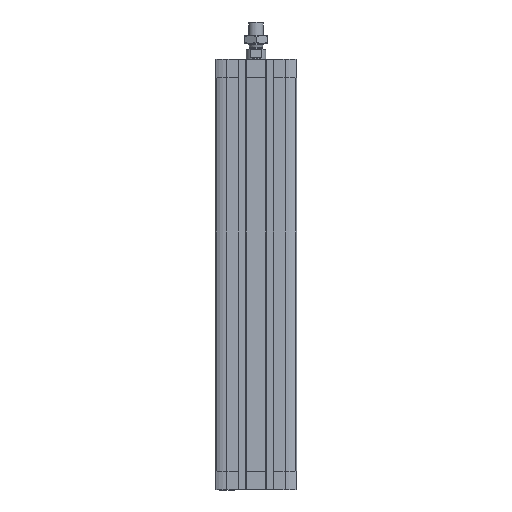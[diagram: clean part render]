
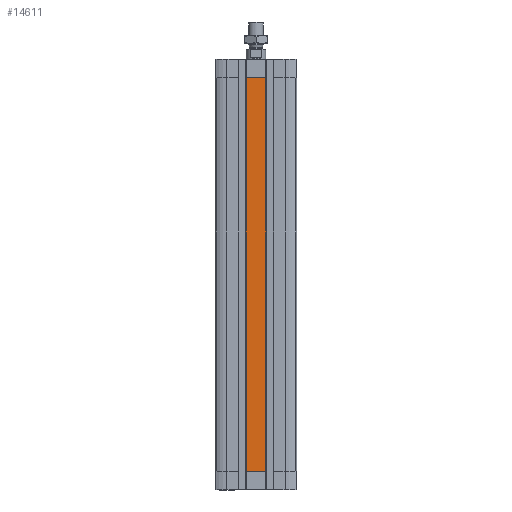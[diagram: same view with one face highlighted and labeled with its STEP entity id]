
A CAD part, front view. The second image highlights one B-rep face of the part: STEP entity #14611.
In plain terms, the highlighted planar face has unit normal (0, -1, 0).
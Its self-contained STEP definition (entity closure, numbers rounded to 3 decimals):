
#737 = DIRECTION ( 'NONE',  ( 1., 0., 0. ) ) ;
#1447 = ORIENTED_EDGE ( 'NONE', *, *, #10672, .T. ) ;
#2643 = CARTESIAN_POINT ( 'NONE',  ( -8., -32.5, -15. ) ) ;
#3085 = CARTESIAN_POINT ( 'NONE',  ( -8., -32.5, -330. ) ) ;
#3845 = DIRECTION ( 'NONE',  ( 0., 0., -1. ) ) ;
#3935 = LINE ( 'NONE', #8207, #13445 ) ;
#4387 = VERTEX_POINT ( 'NONE', #2643 ) ;
#4558 = VERTEX_POINT ( 'NONE', #3085 ) ;
#4983 = VERTEX_POINT ( 'NONE', #15837 ) ;
#5148 = VECTOR ( 'NONE', #14020, 1000. ) ;
#5862 = LINE ( 'NONE', #6047, #12857 ) ;
#5905 = EDGE_CURVE ( 'NONE', #4558, #15342, #3935, .T. ) ;
#6047 = CARTESIAN_POINT ( 'NONE',  ( 8., -32.5, -330. ) ) ;
#6174 = CARTESIAN_POINT ( 'NONE',  ( 0., -32.5, -15. ) ) ;
#6420 = ORIENTED_EDGE ( 'NONE', *, *, #10387, .T. ) ;
#7433 = DIRECTION ( 'NONE',  ( -1., 0., 0. ) ) ;
#7879 = VECTOR ( 'NONE', #7433, 1000. ) ;
#8207 = CARTESIAN_POINT ( 'NONE',  ( -8., -32.5, -330. ) ) ;
#8277 = LINE ( 'NONE', #6174, #7879 ) ;
#8482 = FACE_OUTER_BOUND ( 'NONE', #11461, .T. ) ;
#8565 = DIRECTION ( 'NONE',  ( 0., 0., 1. ) ) ;
#8803 = CARTESIAN_POINT ( 'NONE',  ( -8., -32.5, -330. ) ) ;
#9081 = CARTESIAN_POINT ( 'NONE',  ( -8., -32.5, -330. ) ) ;
#10387 = EDGE_CURVE ( 'NONE', #4387, #4558, #15020, .T. ) ;
#10672 = EDGE_CURVE ( 'NONE', #4983, #4387, #8277, .T. ) ;
#11195 = EDGE_CURVE ( 'NONE', #15342, #4983, #5862, .T. ) ;
#11300 = DIRECTION ( 'NONE',  ( 0., -1., 0. ) ) ;
#11461 = EDGE_LOOP ( 'NONE', ( #12223, #14118, #1447, #6420 ) ) ;
#12223 = ORIENTED_EDGE ( 'NONE', *, *, #5905, .T. ) ;
#12480 = PLANE ( 'NONE',  #14204 ) ;
#12836 = CARTESIAN_POINT ( 'NONE',  ( 8., -32.5, -330. ) ) ;
#12857 = VECTOR ( 'NONE', #8565, 1000. ) ;
#13445 = VECTOR ( 'NONE', #737, 1000. ) ;
#14020 = DIRECTION ( 'NONE',  ( 0., 0., -1. ) ) ;
#14118 = ORIENTED_EDGE ( 'NONE', *, *, #11195, .T. ) ;
#14204 = AXIS2_PLACEMENT_3D ( 'NONE', #8803, #11300, #3845 ) ;
#14611 = ADVANCED_FACE ( 'NONE', ( #8482 ), #12480, .T. ) ;
#15020 = LINE ( 'NONE', #9081, #5148 ) ;
#15342 = VERTEX_POINT ( 'NONE', #12836 ) ;
#15837 = CARTESIAN_POINT ( 'NONE',  ( 8., -32.5, -15. ) ) ;
